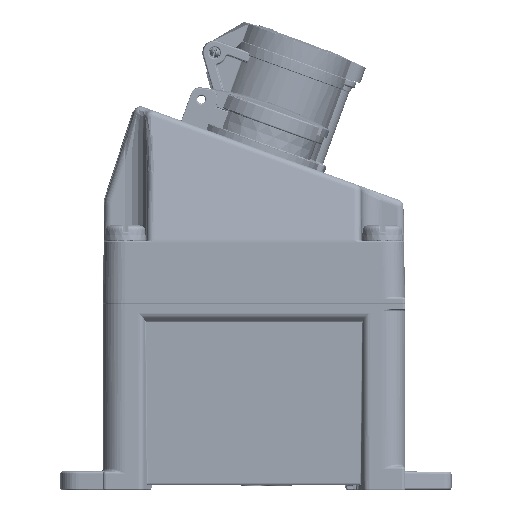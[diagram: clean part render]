
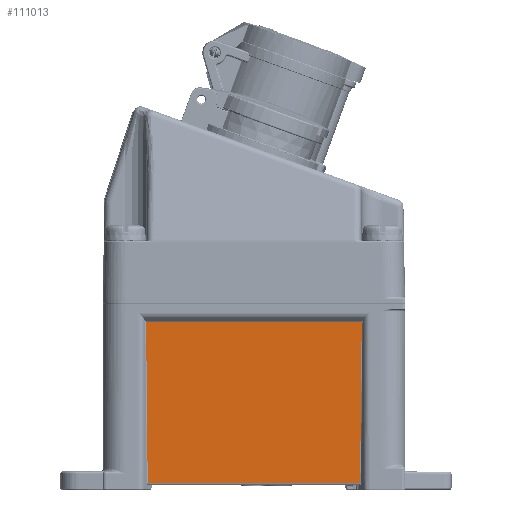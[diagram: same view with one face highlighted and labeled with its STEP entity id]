
A CAD part, left-side view. The second image highlights one B-rep face of the part: STEP entity #111013.
In plain terms, the highlighted planar face has unit normal (-1, 0, -0.018).
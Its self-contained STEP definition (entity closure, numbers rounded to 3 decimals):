
#2633=CARTESIAN_POINT('',(3.779,20.212,2.983));
#2634=CARTESIAN_POINT('',(3.779,20.204,2.983));
#2635=CARTESIAN_POINT('',(3.779,20.189,2.982));
#2636=CARTESIAN_POINT('',(3.779,20.167,2.982));
#2637=CARTESIAN_POINT('',(3.779,20.153,2.982));
#2638=CARTESIAN_POINT('',(3.779,20.145,2.981));
#2652=DIRECTION('',(0.,-1.,0.));
#2653=VECTOR('',#2652,90.443);
#2654=CARTESIAN_POINT('',(3.779,110.655,2.983));
#2655=LINE('36077',#2654,#2653);
#20085=CARTESIAN_POINT('',(3.779,20.145,2.981));
#20086=CARTESIAN_POINT('',(3.779,20.05,2.978));
#20087=CARTESIAN_POINT('',(3.779,19.863,2.959));
#20088=CARTESIAN_POINT('',(3.78,19.592,2.89));
#20089=CARTESIAN_POINT('',(3.782,19.427,2.822));
#20090=CARTESIAN_POINT('',(3.782,19.347,2.782));
#20092=CARTESIAN_POINT('',(3.782,19.347,2.782));
#20100=DIRECTION('',(-0.017,0.01,1.));
#20101=VECTOR('',#20100,69.263);
#20102=CARTESIAN_POINT('',(3.779,110.655,2.983));
#20103=LINE('36088',#20102,#20101);
#20104=DIRECTION('',(0.017,0.01,-1.));
#20105=VECTOR('',#20104,69.464);
#20106=CARTESIAN_POINT('',(2.57,18.647,72.232));
#20107=LINE('39067',#20106,#20105);
#20108=DIRECTION('',(0.,1.,0.));
#20109=VECTOR('',#20108,92.705);
#20110=CARTESIAN_POINT('',(2.57,18.647,72.232));
#20111=LINE('39066',#20110,#20109);
#20112=CARTESIAN_POINT('',(2.57,111.353,72.232));
#59145=CARTESIAN_POINT('',(3.779,20.212,2.983));
#59146=VERTEX_POINT('',#59145);
#59147=VERTEX_POINT('',#2638);
#59149=CARTESIAN_POINT('',(3.779,110.655,2.983));
#59150=VERTEX_POINT('',#59149);
#59164=VERTEX_POINT('',#20112);
#62184=VERTEX_POINT('',#20092);
#62185=CARTESIAN_POINT('',(2.57,18.647,72.232));
#62186=VERTEX_POINT('',#62185);
#110998=CARTESIAN_POINT('',(2.566,113.125,72.434));
#110999=DIRECTION('',(1.,0.,0.017));
#111000=DIRECTION('',(0.017,0.,-1.));
#111001=AXIS2_PLACEMENT_3D('',#110998,#110999,#111000);
#111002=PLANE('47256',#111001);
#111003=ORIENTED_EDGE('39065',*,*,#110985,.F.);
#111004=ORIENTED_EDGE('36073',*,*,#75812,.F.);
#111005=ORIENTED_EDGE('36077',*,*,#75836,.F.);
#111006=ORIENTED_EDGE('36088',*,*,#75892,.T.);
#111008=ORIENTED_EDGE('39066',*,*,#111007,.F.);
#111010=ORIENTED_EDGE('39067',*,*,#111009,.T.);
#111011=EDGE_LOOP('47256',(#111003,#111004,#111005,#111006,#111008,#111010));
#111012=FACE_OUTER_BOUND('47256',#111011,.F.);
#2639=B_SPLINE_CURVE_WITH_KNOTS('36073',3,(#2633,#2634,#2635,#2636,#2637,#2638),
.UNSPECIFIED.,.F.,.F.,(4,1,1,4),(0.,0.333,0.667,1.),
.UNSPECIFIED.);
#20091=B_SPLINE_CURVE_WITH_KNOTS('39065',3,(#20085,#20086,#20087,#20088,#20089,
#20090),.UNSPECIFIED.,.F.,.F.,(4,1,1,4),(0.,0.333,
0.667,1.),.UNSPECIFIED.);
#75812=EDGE_CURVE('36073',#59146,#59147,#2639,.T.);
#75836=EDGE_CURVE('36077',#59150,#59146,#2655,.T.);
#75892=EDGE_CURVE('36088',#59150,#59164,#20103,.T.);
#110985=EDGE_CURVE('39065',#59147,#62184,#20091,.T.);
#111007=EDGE_CURVE('39066',#62186,#59164,#20111,.T.);
#111009=EDGE_CURVE('39067',#62186,#62184,#20107,.T.);
#111013=ADVANCED_FACE('47256',(#111012),#111002,.F.);
